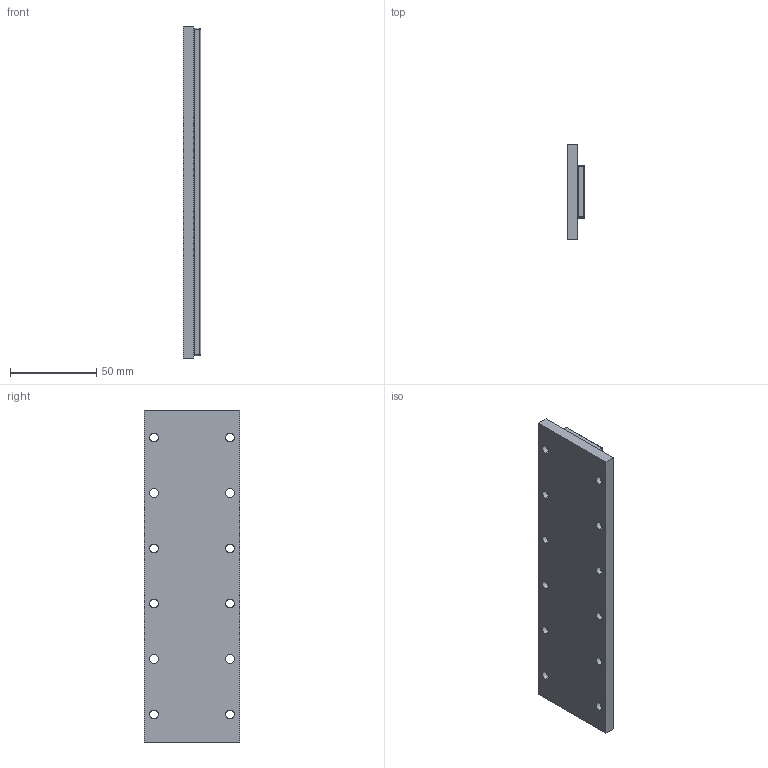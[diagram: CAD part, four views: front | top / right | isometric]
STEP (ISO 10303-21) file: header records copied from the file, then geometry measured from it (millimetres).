
FILE_DESCRIPTION (( 'STEP AP214' ), '1' );
FILE_NAME ('PIXM030-TL192-NC.STEP', '2020-07-30T01:51:55', ( '' ), ( '' ), 'SwSTEP 2.0', 'SolidWorks 2016', '' );
FILE_SCHEMA (( 'AUTOMOTIVE_DESIGN' ));
Length unit declared in the file: inch
Products named in the file (3): PIXM030-TL192-NC; 001SM030LXXX01_TL192; 001SM030000001-CUSTOMER_TL192
Assembly tree (2 placements, depth 2):
  PIXM030-TL192-NC
    001SM030LXXX01_TL192
    001SM030000001-CUSTOMER_TL192
Bounding box: 10 x 55 x 192 mm (x, y, z)
Volume: 83301.9 mm3; surface area: 38077.5 mm2
Topology: 2 solids, 2 shells, 103 faces, 242 edges, 148 vertices
Faces by surface type: cylinder 60, plane 35, bspline 8
Entity records: 4515 total; most frequent: CARTESIAN_POINT 610, DIRECTION 554, ORIENTED_EDGE 468, EDGE_CURVE 234, AXIS2_PLACEMENT_3D 220, VERTEX_POINT 148, EDGE_LOOP 140, CIRCLE 120
